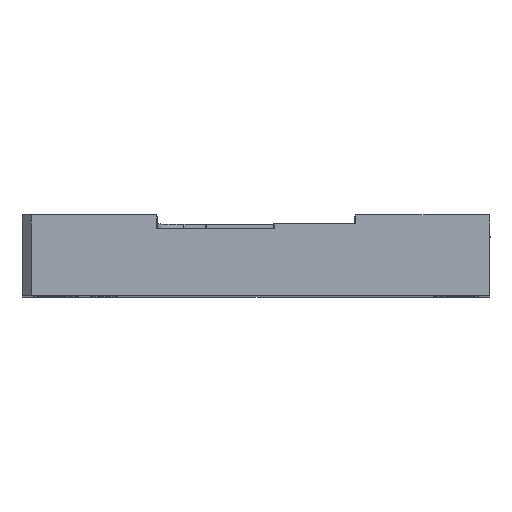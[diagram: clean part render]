
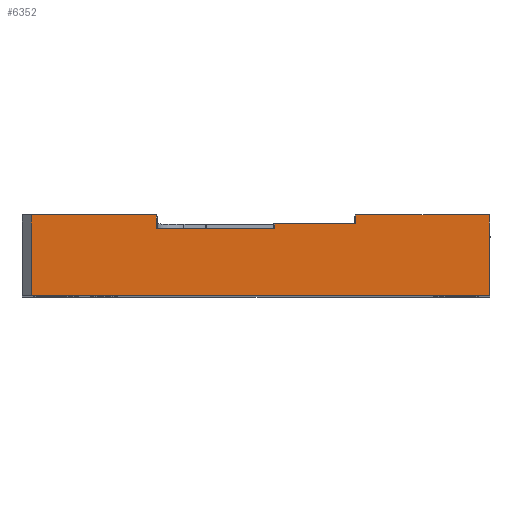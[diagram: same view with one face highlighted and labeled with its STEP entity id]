
A CAD part, top view. The second image highlights one B-rep face of the part: STEP entity #6352.
In plain terms, the highlighted planar face has unit normal (0, 0, 1).
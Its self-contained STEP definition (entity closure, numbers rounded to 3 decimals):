
#209 = LINE ( 'NONE', #2602, #435 ) ;
#342 = LINE ( 'NONE', #8268, #7368 ) ;
#435 = VECTOR ( 'NONE', #6738, 1000. ) ;
#442 = EDGE_CURVE ( 'NONE', #1267, #8010, #7718, .T. ) ;
#734 = LINE ( 'NONE', #2688, #4621 ) ;
#744 = FACE_OUTER_BOUND ( 'NONE', #4050, .T. ) ;
#932 = EDGE_CURVE ( 'NONE', #5070, #1267, #7373, .T. ) ;
#961 = EDGE_CURVE ( 'NONE', #8010, #4863, #1092, .T. ) ;
#1006 = CARTESIAN_POINT ( 'NONE',  ( 252.084, 43.275, 129.073 ) ) ;
#1030 = DIRECTION ( 'NONE',  ( 0., 0., 1. ) ) ;
#1053 = EDGE_CURVE ( 'NONE', #6611, #3555, #342, .T. ) ;
#1092 = LINE ( 'NONE', #5220, #8614 ) ;
#1191 = LINE ( 'NONE', #3379, #6421 ) ;
#1267 = VERTEX_POINT ( 'NONE', #6591 ) ;
#1329 = EDGE_CURVE ( 'NONE', #4863, #5265, #2259, .T. ) ;
#1334 = CARTESIAN_POINT ( 'NONE',  ( 302.984, 52.275, 129.073 ) ) ;
#1593 = EDGE_CURVE ( 'NONE', #5070, #3388, #1191, .T. ) ;
#1681 = ORIENTED_EDGE ( 'NONE', *, *, #2092, .T. ) ;
#1870 = EDGE_CURVE ( 'NONE', #3388, #8480, #209, .T. ) ;
#1900 = CARTESIAN_POINT ( 'NONE',  ( 265.984, 50.775, 129.073 ) ) ;
#1940 = ORIENTED_EDGE ( 'NONE', *, *, #932, .T. ) ;
#1981 = LINE ( 'NONE', #6869, #7299 ) ;
#2053 = VECTOR ( 'NONE', #5847, 1000. ) ;
#2092 = EDGE_CURVE ( 'NONE', #5265, #6611, #734, .T. ) ;
#2130 = DIRECTION ( 'NONE',  ( -1., 0., 0. ) ) ;
#2139 = DIRECTION ( 'NONE',  ( 0., 1., 0. ) ) ;
#2259 = LINE ( 'NONE', #8473, #2053 ) ;
#2384 = AXIS2_PLACEMENT_3D ( 'NONE', #5089, #1030, #6454 ) ;
#2561 = DIRECTION ( 'NONE',  ( 0., -1., 0. ) ) ;
#2602 = CARTESIAN_POINT ( 'NONE',  ( 251.184, 43.275, 129.073 ) ) ;
#2688 = CARTESIAN_POINT ( 'NONE',  ( 302.984, 50.775, 129.073 ) ) ;
#2723 = CARTESIAN_POINT ( 'NONE',  ( 252.084, 52.275, 129.073 ) ) ;
#3120 = DIRECTION ( 'NONE',  ( -1., 0., 0. ) ) ;
#3130 = CARTESIAN_POINT ( 'NONE',  ( 279.184, 51.275, 129.073 ) ) ;
#3328 = ORIENTED_EDGE ( 'NONE', *, *, #1329, .T. ) ;
#3379 = CARTESIAN_POINT ( 'NONE',  ( 302.984, 47.775, 129.073 ) ) ;
#3388 = VERTEX_POINT ( 'NONE', #7953 ) ;
#3555 = VERTEX_POINT ( 'NONE', #4751 ) ;
#3636 = ORIENTED_EDGE ( 'NONE', *, *, #1593, .F. ) ;
#4050 = EDGE_LOOP ( 'NONE', ( #6538, #4589, #3636, #1940, #6043, #7547, #3328, #1681, #8658, #8297 ) ) ;
#4173 = EDGE_CURVE ( 'NONE', #3555, #8021, #1981, .T. ) ;
#4589 = ORIENTED_EDGE ( 'NONE', *, *, #1870, .F. ) ;
#4621 = VECTOR ( 'NONE', #2130, 1000. ) ;
#4635 = CARTESIAN_POINT ( 'NONE',  ( 288.184, 51.275, 129.073 ) ) ;
#4751 = CARTESIAN_POINT ( 'NONE',  ( 265.984, 52.275, 129.073 ) ) ;
#4863 = VERTEX_POINT ( 'NONE', #3130 ) ;
#4967 = VECTOR ( 'NONE', #7003, 1000. ) ;
#5070 = VERTEX_POINT ( 'NONE', #1334 ) ;
#5089 = CARTESIAN_POINT ( 'NONE',  ( 302.984, 52.275, 129.073 ) ) ;
#5220 = CARTESIAN_POINT ( 'NONE',  ( 302.984, 51.275, 129.073 ) ) ;
#5265 = VERTEX_POINT ( 'NONE', #6954 ) ;
#5455 = DIRECTION ( 'NONE',  ( -1., 0., 0. ) ) ;
#5847 = DIRECTION ( 'NONE',  ( 0., -1., 0. ) ) ;
#6043 = ORIENTED_EDGE ( 'NONE', *, *, #442, .T. ) ;
#6193 = CARTESIAN_POINT ( 'NONE',  ( 252.084, 42.275, 129.073 ) ) ;
#6352 = ADVANCED_FACE ( 'NONE', ( #744 ), #6387, .T. ) ;
#6387 = PLANE ( 'NONE',  #2384 ) ;
#6421 = VECTOR ( 'NONE', #7459, 1000. ) ;
#6454 = DIRECTION ( 'NONE',  ( 0., -1., 0. ) ) ;
#6538 = ORIENTED_EDGE ( 'NONE', *, *, #6714, .F. ) ;
#6591 = CARTESIAN_POINT ( 'NONE',  ( 288.184, 52.275, 129.073 ) ) ;
#6611 = VERTEX_POINT ( 'NONE', #1900 ) ;
#6714 = EDGE_CURVE ( 'NONE', #8480, #8021, #8598, .T. ) ;
#6738 = DIRECTION ( 'NONE',  ( -1., 0., 0. ) ) ;
#6801 = CARTESIAN_POINT ( 'NONE',  ( 302.984, 52.275, 129.073 ) ) ;
#6869 = CARTESIAN_POINT ( 'NONE',  ( 302.984, 52.275, 129.073 ) ) ;
#6886 = VECTOR ( 'NONE', #2561, 1000. ) ;
#6954 = CARTESIAN_POINT ( 'NONE',  ( 279.184, 50.775, 129.073 ) ) ;
#7003 = DIRECTION ( 'NONE',  ( 0., 1., 0. ) ) ;
#7299 = VECTOR ( 'NONE', #5455, 1000. ) ;
#7368 = VECTOR ( 'NONE', #2139, 1000. ) ;
#7373 = LINE ( 'NONE', #6801, #8834 ) ;
#7459 = DIRECTION ( 'NONE',  ( 0., -1., 0. ) ) ;
#7547 = ORIENTED_EDGE ( 'NONE', *, *, #961, .T. ) ;
#7718 = LINE ( 'NONE', #8078, #6886 ) ;
#7953 = CARTESIAN_POINT ( 'NONE',  ( 302.984, 43.275, 129.073 ) ) ;
#8010 = VERTEX_POINT ( 'NONE', #4635 ) ;
#8021 = VERTEX_POINT ( 'NONE', #2723 ) ;
#8078 = CARTESIAN_POINT ( 'NONE',  ( 288.184, 52.275, 129.073 ) ) ;
#8101 = DIRECTION ( 'NONE',  ( -1., 0., 0. ) ) ;
#8268 = CARTESIAN_POINT ( 'NONE',  ( 265.984, 52.275, 129.073 ) ) ;
#8297 = ORIENTED_EDGE ( 'NONE', *, *, #4173, .T. ) ;
#8473 = CARTESIAN_POINT ( 'NONE',  ( 279.184, 52.275, 129.073 ) ) ;
#8480 = VERTEX_POINT ( 'NONE', #1006 ) ;
#8598 = LINE ( 'NONE', #6193, #4967 ) ;
#8614 = VECTOR ( 'NONE', #3120, 1000. ) ;
#8658 = ORIENTED_EDGE ( 'NONE', *, *, #1053, .T. ) ;
#8834 = VECTOR ( 'NONE', #8101, 1000. ) ;
